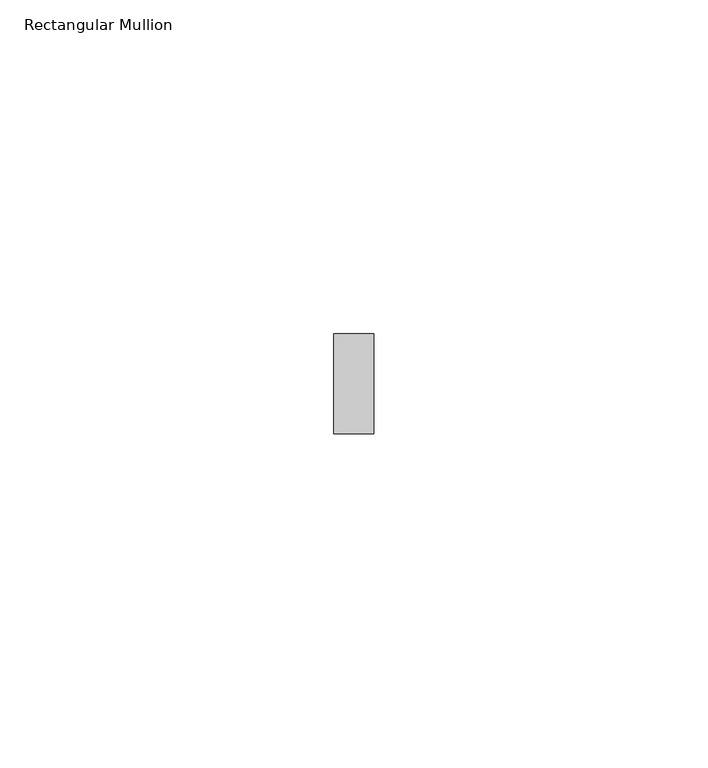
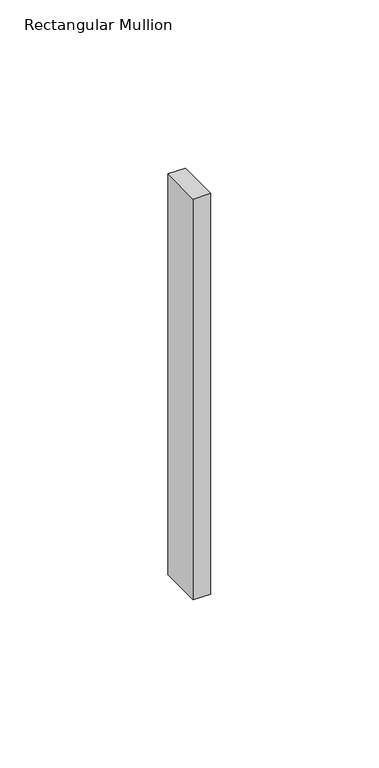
"""IFC4 building model written with IfcOpenShell, lengths in millimetres: member geometry, Rectangular Mullion : ARQ_HERR_15X6mm."""

from ifc_helpers import new_model, si_unit, frame, origin, place, context, project, spatial, polyline, outline, extrude, source, transform, mapped, element, save


def rectangular_mullion_9fa35bb9(model_context):
    return source(origin(), model_context, "Body", "SweptSolid", [
        extrude(outline(polyline([(0.0, 7.5), (0.0, -7.5), (-6.0, -7.5), (-6.0, 7.5), (0.0, 7.5)])), frame((0.0, 0.0, -145.4545455), z_axis=(0.0, 0.0, 1.0), x_axis=(1.0, 0.0, 0.0)), (0.0, 0.0, 1.0), 145.4545455),
    ])


if __name__ == "__main__":
    model = new_model("IFC4")
    model_context = context("Model", 3, world=origin())
    ifc_project = project(units=[si_unit("LENGTHUNIT", "METRE", prefix="MILLI")], contexts=[model_context])
    site = spatial("IfcSite", under=ifc_project)
    building = spatial("IfcBuilding", under=site)
    placement = place(None, origin())
    rectangular_mullion_shape = rectangular_mullion_9fa35bb9(model_context)
    element("IfcMember", 1, ObjectType="Rectangular Mullion : ARQ_HERR_15X6mm", at=placement, inside=building, context=model_context, shape_type="MappedRepresentation", body=[
        mapped(rectangular_mullion_shape, transform((0.0, 0.0, 0.0), x_axis=(1.0, 0.0, 0.0), y_axis=(0.0, 1.0, 0.0), z_axis=(0.0, 0.0, 1.0))),
    ])
    save(model, "model.ifc")
